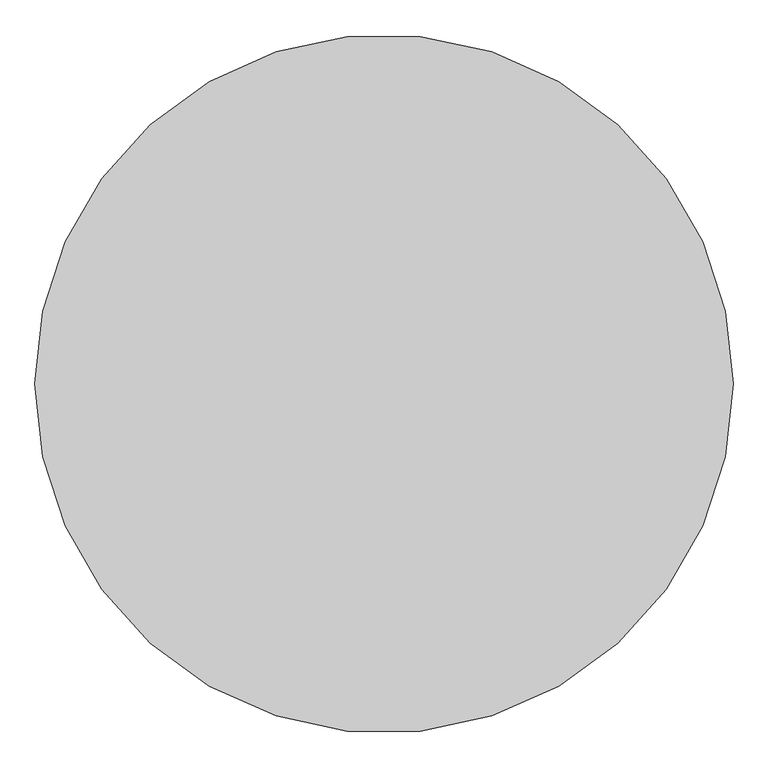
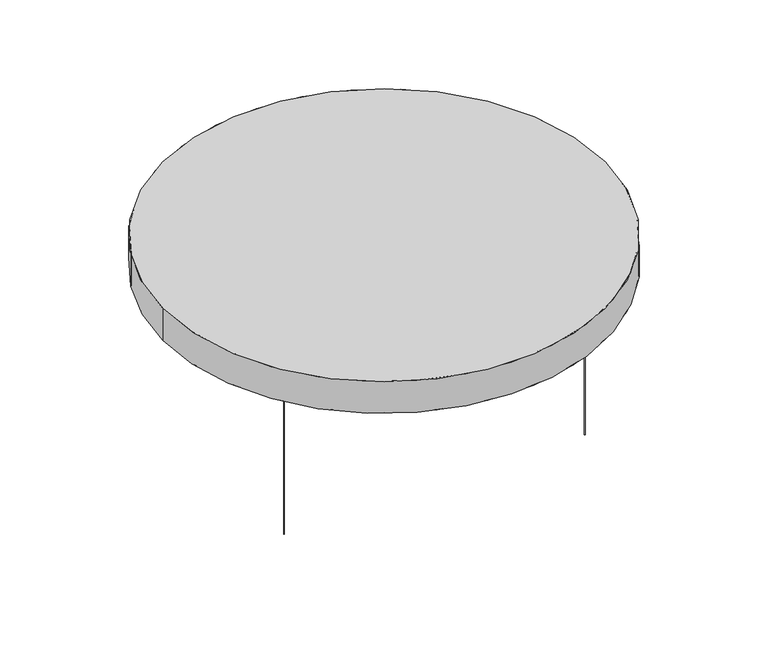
"""IFC4 building model written with IfcOpenShell, lengths in millimetres: proxy geometry, Texaa_Coussin_Abso_Ronds_Suspendus_plafond : ø 1250x95."""

from ifc_helpers import new_model, si_unit, point, frame, frame_2d, origin, origin_with_axes, origin_2d, place, context, project, spatial, polyline, circle_curve, trimmed, segment, composite_curve, outline, extrude, source, transform, mapped, element, save
from ifc_brep_helpers import plane_surface, cylinder_surface, revolved_surface, advanced_brep


def generic_models_03f6b46f(model_context):
    return source(origin(), model_context, "Body", "SolidModel", [
        extrude(outline(composite_curve([segment(trimmed(circle_curve(origin_2d(), 624.0), [point((-624.0, 0.0))], [point((624.0, 0.0))], False, "CARTESIAN"), True, "CONTINUOUS"), segment(trimmed(circle_curve(origin_2d(), 624.0), [point((624.0, 0.0))], [point((-624.0, 0.0))], False, "CARTESIAN"), True, "CONTINUOUS")], self_intersect=False)), frame((0.0, 0.0, 501.0), z_axis=(0.0, 0.0, 1.0), x_axis=(1.0, 0.0, 0.0)), (0.0, 0.0, 1.0), 93.0),
        advanced_brep(
        [(-625.0, 0.0, 595.0), (625.0, 0.0, 595.0), (-625.0, 0.0, 500.0), (625.0, 0.0, 500.0), (-575.0, 0.0, 500.0), (575.0, 0.0, 500.0), (-624.0, 0.0, 594.0), (624.0, 0.0, 594.0), (-624.0, 0.0, 501.0), (624.0, 0.0, 501.0), (575.0, 0.0, 501.0), (-575.0, 0.0, 501.0)],
        [
            (0, 1, circle_curve(frame((0.0, 0.0, 595.0), z_axis=(0.0, 0.0, 1.0), x_axis=(1.0, 0.0, 0.0)), 625.0)),
            (1, 0, circle_curve(frame((0.0, 0.0, 595.0), z_axis=(0.0, 0.0, 1.0), x_axis=(1.0, 0.0, 0.0)), 625.0)),
            (2, 3, circle_curve(frame((0.0, 0.0, 500.0), z_axis=(0.0, 0.0, -1.0), x_axis=(1.0, 0.0, 0.0)), 625.0)),
            (3, 2, circle_curve(frame((0.0, 0.0, 500.0), z_axis=(0.0, 0.0, -1.0), x_axis=(1.0, 0.0, 0.0)), 625.0)),
            (4, 5, circle_curve(frame((0.0, 0.0, 500.0), z_axis=(0.0, 0.0, 1.0), x_axis=(1.0, 0.0, 0.0)), 575.0)),
            (5, 4, circle_curve(frame((0.0, 0.0, 500.0), z_axis=(0.0, 0.0, 1.0), x_axis=(1.0, 0.0, 0.0)), 575.0)),
            (1, 3),
            (2, 0),
            (6, 7, circle_curve(frame((0.0, 0.0, 594.0), z_axis=(0.0, 0.0, -1.0), x_axis=(1.0, 0.0, 0.0)), 624.0)),
            (7, 6, circle_curve(frame((0.0, 0.0, 594.0), z_axis=(0.0, 0.0, -1.0), x_axis=(1.0, 0.0, 0.0)), 624.0)),
            (8, 9, circle_curve(frame((0.0, 0.0, 501.0), z_axis=(0.0, 0.0, 1.0), x_axis=(1.0, 0.0, 0.0)), 624.0)),
            (9, 8, circle_curve(frame((0.0, 0.0, 501.0), z_axis=(0.0, 0.0, 1.0), x_axis=(1.0, 0.0, 0.0)), 624.0)),
            (10, 11, circle_curve(frame((0.0, 0.0, 501.0), z_axis=(0.0, 0.0, -1.0), x_axis=(1.0, 0.0, 0.0)), 575.0)),
            (11, 10, circle_curve(frame((0.0, 0.0, 501.0), z_axis=(0.0, 0.0, -1.0), x_axis=(1.0, 0.0, 0.0)), 575.0)),
            (6, 8),
            (9, 7),
            (11, 4),
            (5, 10),
        ],
        [
            plane_surface(frame((625.0, 0.0, 595.0), z_axis=(0.0, 0.0, 1.0), x_axis=(0.0, -1.0, 0.0))),
            plane_surface(frame((625.0, 0.0, 500.0), z_axis=(0.0, 0.0, -1.0), x_axis=(0.0, 1.0, 0.0))),
            cylinder_surface(frame((0.0, 0.0, 500.0), z_axis=(0.0, 0.0, 1.0), x_axis=(1.0, 0.0, 0.0)), 625.0),
            plane_surface(frame((624.0, 0.0, 594.0), z_axis=(0.0, 0.0, -1.0), x_axis=(0.0, -1.0, 0.0))),
            plane_surface(frame((624.0, 0.0, 501.0), z_axis=(0.0, 0.0, 1.0), x_axis=(0.0, 1.0, 0.0))),
            revolved_surface(polyline([(624.0, 0.0, 594.0), (624.0, 0.0, 501.0)]), (0.0, 0.0, 501.0), (0.0, 0.0, 1.0)),
            revolved_surface(polyline([(575.0, 0.0, 501.0), (575.0, 0.0, 500.0)]), (0.0, 0.0, 500.0), (0.0, 0.0, 1.0)),
        ],
        [
            (0, [[1, 2]]),
            (1, [[3, 4], [5, 6]]),
            (2, [[7, -3, 8, -2]]),
            (2, [[-8, -4, -7, -1]]),
            (3, [[9, 10]]),
            (4, [[11, 12], [13, 14]]),
            (5, [[15, -12, 16, -9]]),
            (5, [[-16, -11, -15, -10]]),
            (6, [[-14, 17, -6, 18]]),
            (6, [[-5, -17, -13, -18]]),
        ],
    ),
        extrude(outline(composite_curve([segment(trimmed(circle_curve(frame_2d((0.0, 490.7477288)), 1.0), [point((-1.0, 490.7477288))], [point((1.0, 490.7477288))], False, "CARTESIAN"), True, "CONTINUOUS"), segment(trimmed(circle_curve(frame_2d((0.0, 490.7477288)), 1.0), [point((1.0, 490.7477288))], [point((-1.0, 490.7477288))], False, "CARTESIAN"), True, "CONTINUOUS")], self_intersect=False)), origin_with_axes(), (0.0, 0.0, 1.0), 500.0),
        extrude(outline(composite_curve([segment(trimmed(circle_curve(frame_2d((425.0, -245.3738644)), 1.0), [point((424.0, -245.3738644))], [point((426.0, -245.3738644))], False, "CARTESIAN"), True, "CONTINUOUS"), segment(trimmed(circle_curve(frame_2d((425.0, -245.3738644)), 1.0), [point((426.0, -245.3738644))], [point((424.0, -245.3738644))], False, "CARTESIAN"), True, "CONTINUOUS")], self_intersect=False)), origin_with_axes(), (0.0, 0.0, 1.0), 500.0),
        extrude(outline(composite_curve([segment(trimmed(circle_curve(frame_2d((-424.0, -245.3738644)), 1.0), [point((-425.0, -245.3738644))], [point((-423.0, -245.3738644))], False, "CARTESIAN"), True, "CONTINUOUS"), segment(trimmed(circle_curve(frame_2d((-424.0, -245.3738644)), 1.0), [point((-423.0, -245.3738644))], [point((-425.0, -245.3738644))], False, "CARTESIAN"), True, "CONTINUOUS")], self_intersect=False)), origin_with_axes(), (0.0, 0.0, 1.0), 500.0),
    ])


if __name__ == "__main__":
    model = new_model("IFC4")
    model_context = context("Model", 3, world=origin())
    ifc_project = project(units=[si_unit("LENGTHUNIT", "METRE", prefix="MILLI")], contexts=[model_context])
    site = spatial("IfcSite", under=ifc_project)
    building = spatial("IfcBuilding", under=site)
    placement = place(None, origin())
    generic_models_shape = generic_models_03f6b46f(model_context)
    element("IfcBuildingElementProxy", 1, Name="Texaa_Coussin_Abso_Ronds_Suspendus_plafond : ø 1250x95", ObjectType="Texaa_Coussin_Abso_Ronds_Suspendus_plafond : ø 1250x95", at=placement, inside=building, context=model_context, shape_type="MappedRepresentation", body=[
        mapped(generic_models_shape, transform((0.0, 0.0, 0.0), x_axis=(1.0, 0.0, 0.0), y_axis=(0.0, 1.0, 0.0), z_axis=(0.0, 0.0, 1.0))),
    ])
    save(model, "model.ifc")
